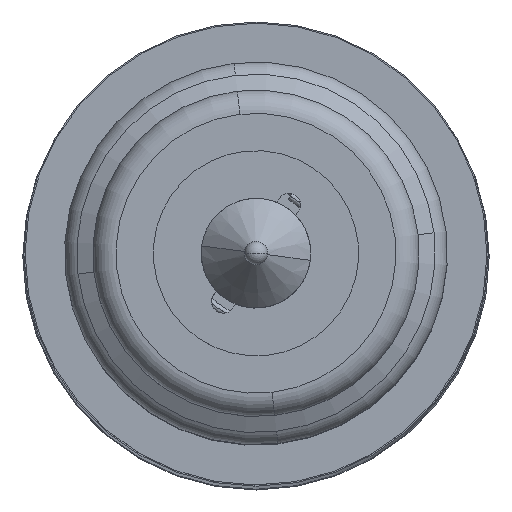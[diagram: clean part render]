
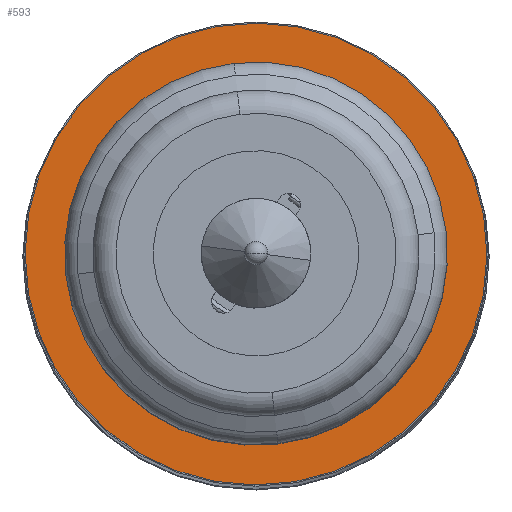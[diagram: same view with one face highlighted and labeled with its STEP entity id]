
A CAD part, top view. The second image highlights one B-rep face of the part: STEP entity #593.
In plain terms, the highlighted planar face has unit normal (0, 0, 1).
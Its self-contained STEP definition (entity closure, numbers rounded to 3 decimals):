
#593=ADVANCED_FACE('',(#1400,#1401),#1402,.T.);
#1400=FACE_OUTER_BOUND('',#2972,.T.);
#1401=FACE_BOUND('',#2973,.T.);
#1402=PLANE('',#2974);
#2972=EDGE_LOOP('',(#5296,#5297));
#2973=EDGE_LOOP('',(#5298,#5299,#5300));
#2974=AXIS2_PLACEMENT_3D('',#5301,#5302,#5303);
#5296=ORIENTED_EDGE('',*,*,#7855,.T.);
#5297=ORIENTED_EDGE('',*,*,#7867,.T.);
#5298=ORIENTED_EDGE('',*,*,#7433,.T.);
#5299=ORIENTED_EDGE('',*,*,#7359,.T.);
#5300=ORIENTED_EDGE('',*,*,#7434,.T.);
#5301=CARTESIAN_POINT('',(-2.435,6.802,64.5));
#5302=DIRECTION('',(0.0,0.0,1.0));
#5303=DIRECTION('',(1.0,-0.0,0.0));
#7359=EDGE_CURVE('',#8593,#8591,#8594,.T.);
#7433=EDGE_CURVE('',#8710,#8593,#8711,.T.);
#7434=EDGE_CURVE('',#8591,#8710,#8712,.T.);
#7855=EDGE_CURVE('',#9367,#9371,#9373,.T.);
#7867=EDGE_CURVE('',#9371,#9367,#9388,.T.);
#8591=VERTEX_POINT('',#10593);
#8593=VERTEX_POINT('',#10595);
#8594=CIRCLE('',#10596,5.895);
#8710=VERTEX_POINT('',#10712);
#8711=CIRCLE('',#10713,5.895);
#8712=CIRCLE('',#10714,5.895);
#9367=VERTEX_POINT('',#11623);
#9371=VERTEX_POINT('',#11628);
#9373=CIRCLE('',#11631,9.9);
#9388=CIRCLE('',#11648,9.9);
#10593=CARTESIAN_POINT('',(0.675,-5.857,64.5));
#10595=CARTESIAN_POINT('',(-0.675,5.857,64.5));
#10596=AXIS2_PLACEMENT_3D('',#12958,#12959,#12960);
#10712=CARTESIAN_POINT('',(-5.895,0.,64.5));
#10713=AXIS2_PLACEMENT_3D('',#13135,#13136,#13137);
#10714=AXIS2_PLACEMENT_3D('',#13138,#13139,#13140);
#11623=CARTESIAN_POINT('',(-3.337,9.321,64.5));
#11628=CARTESIAN_POINT('',(3.337,-9.321,64.5));
#11631=AXIS2_PLACEMENT_3D('',#13891,#13892,#13893);
#11648=AXIS2_PLACEMENT_3D('',#13911,#13912,#13913);
#12958=CARTESIAN_POINT('',(0.,0.,64.5));
#12959=DIRECTION('',(0.0,0.0,-1.0));
#12960=DIRECTION('',(1.0,0.0,0.0));
#13135=CARTESIAN_POINT('',(0.,0.,64.5));
#13136=DIRECTION('',(0.0,0.0,-1.0));
#13137=DIRECTION('',(1.0,0.0,0.0));
#13138=CARTESIAN_POINT('',(0.,0.,64.5));
#13139=DIRECTION('',(0.0,0.0,-1.0));
#13140=DIRECTION('',(1.0,0.0,0.0));
#13891=CARTESIAN_POINT('',(0.0,0.0,64.5));
#13892=DIRECTION('',(0.0,0.0,1.0));
#13893=DIRECTION('',(-0.337,0.941,0.0));
#13911=CARTESIAN_POINT('',(0.0,0.0,64.5));
#13912=DIRECTION('',(0.0,0.0,1.0));
#13913=DIRECTION('',(-0.337,0.941,0.0));
